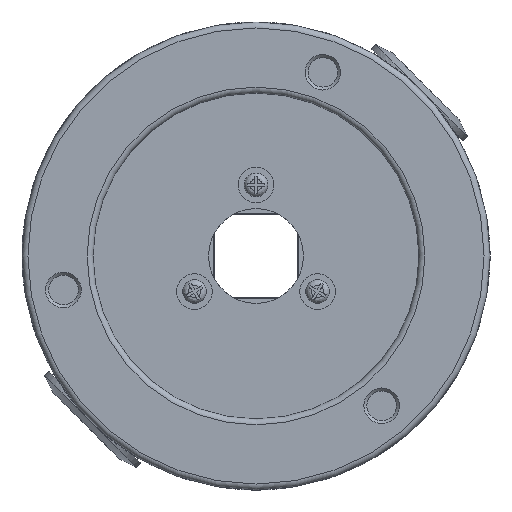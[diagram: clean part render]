
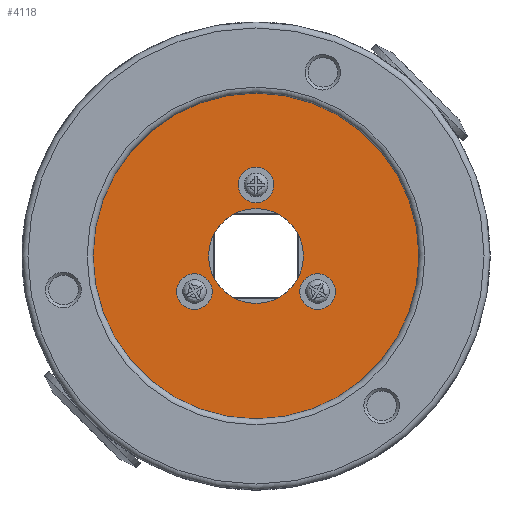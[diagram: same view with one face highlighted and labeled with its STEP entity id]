
A CAD part, front view. The second image highlights one B-rep face of the part: STEP entity #4118.
In plain terms, the highlighted planar face has unit normal (0, -1, 0).
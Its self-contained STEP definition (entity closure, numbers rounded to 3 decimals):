
#67=FACE_BOUND('',#794,.T.);
#68=FACE_BOUND('',#795,.T.);
#69=FACE_BOUND('',#796,.T.);
#70=FACE_BOUND('',#797,.T.);
#182=PLANE('',#4501);
#564=FACE_OUTER_BOUND('',#793,.T.);
#793=EDGE_LOOP('',(#3555));
#794=EDGE_LOOP('',(#3556));
#795=EDGE_LOOP('',(#3557));
#796=EDGE_LOOP('',(#3558));
#797=EDGE_LOOP('',(#3559));
#1737=CIRCLE('',#4307,27.5);
#1774=CIRCLE('',#4365,3.);
#1783=CIRCLE('',#4394,3.);
#1806=CIRCLE('',#4482,8.);
#1808=CIRCLE('',#4500,3.);
#1838=VERTEX_POINT('',#5784);
#1927=VERTEX_POINT('',#6101);
#1965=VERTEX_POINT('',#6309);
#2061=VERTEX_POINT('',#6968);
#2063=VERTEX_POINT('',#6996);
#2241=EDGE_CURVE('',#1838,#1838,#1737,.T.);
#2354=EDGE_CURVE('',#1927,#1927,#1774,.T.);
#2411=EDGE_CURVE('',#1965,#1965,#1783,.T.);
#2573=EDGE_CURVE('',#2061,#2061,#1806,.T.);
#2583=EDGE_CURVE('',#2063,#2063,#1808,.T.);
#3555=ORIENTED_EDGE('',*,*,#2241,.F.);
#3556=ORIENTED_EDGE('',*,*,#2354,.T.);
#3557=ORIENTED_EDGE('',*,*,#2411,.T.);
#3558=ORIENTED_EDGE('',*,*,#2583,.T.);
#3559=ORIENTED_EDGE('',*,*,#2573,.F.);
#4118=ADVANCED_FACE('',(#564,#67,#68,#69,#70),#182,.F.);
#4307=AXIS2_PLACEMENT_3D('',#5786,#4682,#4683);
#4365=AXIS2_PLACEMENT_3D('',#6102,#4860,#4861);
#4394=AXIS2_PLACEMENT_3D('',#6310,#4952,#4953);
#4482=AXIS2_PLACEMENT_3D('',#6969,#5235,#5236);
#4500=AXIS2_PLACEMENT_3D('',#6997,#5279,#5280);
#4501=AXIS2_PLACEMENT_3D('',#6999,#5282,#5283);
#4682=DIRECTION('center_axis',(0.,1.,0.));
#4683=DIRECTION('ref_axis',(-1.,0.,0.));
#4860=DIRECTION('center_axis',(0.,1.,0.));
#4861=DIRECTION('ref_axis',(0.5,0.,-0.866));
#4952=DIRECTION('center_axis',(0.,1.,0.));
#4953=DIRECTION('ref_axis',(0.5,0.,0.866));
#5235=DIRECTION('center_axis',(0.,-1.,0.));
#5236=DIRECTION('ref_axis',(1.,0.,0.));
#5279=DIRECTION('center_axis',(0.,1.,0.));
#5280=DIRECTION('ref_axis',(-1.,0.,0.));
#5282=DIRECTION('center_axis',(0.,1.,0.));
#5283=DIRECTION('ref_axis',(0.,0.,1.));
#5784=CARTESIAN_POINT('',(27.5,3.5,0.));
#5786=CARTESIAN_POINT('Origin',(0.,3.5,0.));
#6101=CARTESIAN_POINT('',(-11.892,3.5,-3.402));
#6102=CARTESIAN_POINT('Origin',(-10.392,3.5,-6.));
#6309=CARTESIAN_POINT('',(8.892,3.5,-8.598));
#6310=CARTESIAN_POINT('Origin',(10.392,3.5,-6.));
#6968=CARTESIAN_POINT('',(-8.,3.5,0.));
#6969=CARTESIAN_POINT('Origin',(0.,3.5,0.));
#6996=CARTESIAN_POINT('',(3.,3.5,12.));
#6997=CARTESIAN_POINT('Origin',(0.,3.5,12.));
#6999=CARTESIAN_POINT('Origin',(0.,3.5,0.));
